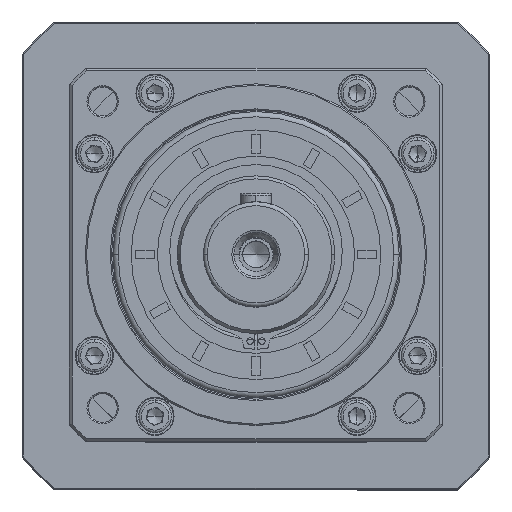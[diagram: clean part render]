
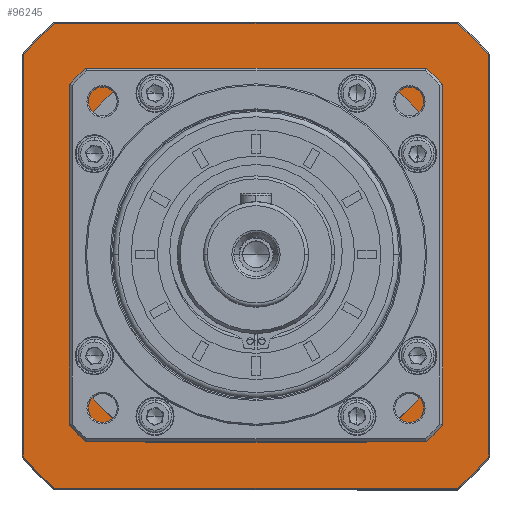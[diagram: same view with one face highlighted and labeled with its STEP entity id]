
A CAD part, top view. The second image highlights one B-rep face of the part: STEP entity #96245.
In plain terms, the highlighted planar face has unit normal (0, 0, 1).
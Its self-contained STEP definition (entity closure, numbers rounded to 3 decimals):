
#548 = DIRECTION ( 'NONE',  ( -1., 0., 0. ) ) ;
#1230 = DIRECTION ( 'NONE',  ( -1., 0., 0. ) ) ;
#1684 = CARTESIAN_POINT ( 'NONE',  ( 274.907, -159.778, 165.15 ) ) ;
#2084 = DIRECTION ( 'NONE',  ( 0., 0., 1. ) ) ;
#2259 = VECTOR ( 'NONE', #107546, 1000. ) ;
#2315 = CIRCLE ( 'NONE', #75763, 82. ) ;
#2884 = CIRCLE ( 'NONE', #21040, 82. ) ;
#2931 = VECTOR ( 'NONE', #21047, 1000. ) ;
#2955 = VERTEX_POINT ( 'NONE', #10046 ) ;
#6943 = LINE ( 'NONE', #35432, #2259 ) ;
#7149 = VERTEX_POINT ( 'NONE', #115398 ) ;
#9343 = CARTESIAN_POINT ( 'NONE',  ( 274.907, -236.307, 165.15 ) ) ;
#10046 = CARTESIAN_POINT ( 'NONE',  ( 144.53, -89.278, 165.15 ) ) ;
#10596 = CARTESIAN_POINT ( 'NONE',  ( 274.907, -83.248, 165.15 ) ) ;
#11702 = CIRCLE ( 'NONE', #46884, 117. ) ;
#13071 = EDGE_CURVE ( 'NONE', #45109, #96413, #17241, .T. ) ;
#16123 = ORIENTED_EDGE ( 'NONE', *, *, #84993, .T. ) ;
#16152 = CARTESIAN_POINT ( 'NONE',  ( 262.937, -71.278, 165.15 ) ) ;
#16263 = CARTESIAN_POINT ( 'NONE',  ( 228.285, -89.278, 165.15 ) ) ;
#16564 = LINE ( 'NONE', #17258, #65749 ) ;
#16669 = CARTESIAN_POINT ( 'NONE',  ( 186.407, -159.778, 165.15 ) ) ;
#17241 = CIRCLE ( 'NONE', #68551, 117. ) ;
#17258 = CARTESIAN_POINT ( 'NONE',  ( 186.407, -248.278, 165.15 ) ) ;
#17405 = VERTEX_POINT ( 'NONE', #105815 ) ;
#18490 = VERTEX_POINT ( 'NONE', #126918 ) ;
#18647 = ORIENTED_EDGE ( 'NONE', *, *, #125973, .T. ) ;
#20080 = FACE_OUTER_BOUND ( 'NONE', #67184, .T. ) ;
#21040 = AXIS2_PLACEMENT_3D ( 'NONE', #42053, #67435, #95386 ) ;
#21047 = DIRECTION ( 'NONE',  ( 0., 1., 0. ) ) ;
#21441 = EDGE_CURVE ( 'NONE', #97814, #45109, #16564, .T. ) ;
#22011 = EDGE_CURVE ( 'NONE', #36737, #97479, #59370, .T. ) ;
#23020 = DIRECTION ( 'NONE',  ( 0., -1., 0. ) ) ;
#23628 = EDGE_CURVE ( 'NONE', #7149, #36737, #71889, .T. ) ;
#24302 = CARTESIAN_POINT ( 'NONE',  ( 186.407, -159.778, 165.15 ) ) ;
#24901 = AXIS2_PLACEMENT_3D ( 'NONE', #88626, #29839, #548 ) ;
#27435 = DIRECTION ( 'NONE',  ( 0., 0., -1. ) ) ;
#27561 = DIRECTION ( 'NONE',  ( 0., 0., 1. ) ) ;
#29839 = DIRECTION ( 'NONE',  ( 0., 0., 1. ) ) ;
#31140 = AXIS2_PLACEMENT_3D ( 'NONE', #24302, #92999, #113151 ) ;
#31799 = CARTESIAN_POINT ( 'NONE',  ( 186.407, -159.778, 165.15 ) ) ;
#32639 = DIRECTION ( 'NONE',  ( -1., 0., 0. ) ) ;
#32787 = VERTEX_POINT ( 'NONE', #57985 ) ;
#34290 = CARTESIAN_POINT ( 'NONE',  ( 186.407, -159.778, 165.15 ) ) ;
#34391 = LINE ( 'NONE', #105708, #109658 ) ;
#35008 = ORIENTED_EDGE ( 'NONE', *, *, #22011, .T. ) ;
#35255 = LINE ( 'NONE', #1684, #2931 ) ;
#35432 = CARTESIAN_POINT ( 'NONE',  ( 228.422, -89.278, 165.15 ) ) ;
#35811 = VERTEX_POINT ( 'NONE', #16263 ) ;
#36737 = VERTEX_POINT ( 'NONE', #77931 ) ;
#37908 = VECTOR ( 'NONE', #49817, 1000. ) ;
#42053 = CARTESIAN_POINT ( 'NONE',  ( 186.407, -159.778, 165.15 ) ) ;
#42377 = CARTESIAN_POINT ( 'NONE',  ( 115.907, -201.656, 165.15 ) ) ;
#42391 = DIRECTION ( 'NONE',  ( 0., 0., -1. ) ) ;
#45109 = VERTEX_POINT ( 'NONE', #118710 ) ;
#45464 = CARTESIAN_POINT ( 'NONE',  ( 144.392, -230.278, 165.15 ) ) ;
#45564 = AXIS2_PLACEMENT_3D ( 'NONE', #58886, #27561, #117232 ) ;
#46551 = VERTEX_POINT ( 'NONE', #119806 ) ;
#46884 = AXIS2_PLACEMENT_3D ( 'NONE', #60121, #2084, #1230 ) ;
#47182 = LINE ( 'NONE', #65268, #37908 ) ;
#49817 = DIRECTION ( 'NONE',  ( -1., 0., 0. ) ) ;
#51550 = VECTOR ( 'NONE', #23020, 1000. ) ;
#53807 = CIRCLE ( 'NONE', #24901, 117. ) ;
#55380 = ORIENTED_EDGE ( 'NONE', *, *, #90247, .T. ) ;
#55790 = DIRECTION ( 'NONE',  ( -1., 0., 0. ) ) ;
#55903 = DIRECTION ( 'NONE',  ( 1., 0., 0. ) ) ;
#55962 = CIRCLE ( 'NONE', #59418, 82. ) ;
#57985 = CARTESIAN_POINT ( 'NONE',  ( 97.907, -236.307, 165.15 ) ) ;
#58053 = VECTOR ( 'NONE', #55790, 1000. ) ;
#58202 = CIRCLE ( 'NONE', #45564, 117. ) ;
#58886 = CARTESIAN_POINT ( 'NONE',  ( 186.407, -159.778, 165.15 ) ) ;
#59370 = CIRCLE ( 'NONE', #31140, 82. ) ;
#59418 = AXIS2_PLACEMENT_3D ( 'NONE', #126680, #59709, #60566 ) ;
#59495 = ORIENTED_EDGE ( 'NONE', *, *, #106410, .T. ) ;
#59709 = DIRECTION ( 'NONE',  ( 0., 0., -1. ) ) ;
#60121 = CARTESIAN_POINT ( 'NONE',  ( 186.407, -159.778, 165.15 ) ) ;
#60566 = DIRECTION ( 'NONE',  ( 1., 0., 0. ) ) ;
#61961 = ORIENTED_EDGE ( 'NONE', *, *, #101890, .T. ) ;
#62099 = CARTESIAN_POINT ( 'NONE',  ( 97.907, -159.778, 165.15 ) ) ;
#63714 = EDGE_CURVE ( 'NONE', #18490, #111305, #2315, .T. ) ;
#64536 = VERTEX_POINT ( 'NONE', #107073 ) ;
#65268 = CARTESIAN_POINT ( 'NONE',  ( 186.407, -71.278, 165.15 ) ) ;
#65749 = VECTOR ( 'NONE', #55903, 1000. ) ;
#66918 = DIRECTION ( 'NONE',  ( -1., 0., 0. ) ) ;
#66974 = EDGE_CURVE ( 'NONE', #35811, #7149, #2884, .T. ) ;
#67184 = EDGE_LOOP ( 'NONE', ( #124735, #71682, #122724, #76504, #55380, #108016, #59495, #120520 ) ) ;
#67371 = ORIENTED_EDGE ( 'NONE', *, *, #66974, .T. ) ;
#67435 = DIRECTION ( 'NONE',  ( 0., 0., -1. ) ) ;
#68551 = AXIS2_PLACEMENT_3D ( 'NONE', #31799, #81172, #32639 ) ;
#71318 = CARTESIAN_POINT ( 'NONE',  ( 109.878, -248.278, 165.15 ) ) ;
#71588 = LINE ( 'NONE', #62099, #51550 ) ;
#71682 = ORIENTED_EDGE ( 'NONE', *, *, #109125, .T. ) ;
#71889 = LINE ( 'NONE', #105770, #90199 ) ;
#74661 = AXIS2_PLACEMENT_3D ( 'NONE', #16669, #27435, #66918 ) ;
#75763 = AXIS2_PLACEMENT_3D ( 'NONE', #34290, #42391, #111142 ) ;
#76407 = PLANE ( 'NONE',  #74661 ) ;
#76504 = ORIENTED_EDGE ( 'NONE', *, *, #13071, .T. ) ;
#77931 = CARTESIAN_POINT ( 'NONE',  ( 256.907, -201.656, 165.15 ) ) ;
#80952 = VERTEX_POINT ( 'NONE', #10596 ) ;
#81113 = LINE ( 'NONE', #45464, #58053 ) ;
#81172 = DIRECTION ( 'NONE',  ( 0., 0., 1. ) ) ;
#84658 = EDGE_CURVE ( 'NONE', #64536, #32787, #71588, .T. ) ;
#84993 = EDGE_CURVE ( 'NONE', #2955, #35811, #6943, .T. ) ;
#88626 = CARTESIAN_POINT ( 'NONE',  ( 186.407, -159.778, 165.15 ) ) ;
#90199 = VECTOR ( 'NONE', #115599, 1000. ) ;
#90247 = EDGE_CURVE ( 'NONE', #96413, #80952, #35255, .T. ) ;
#92999 = DIRECTION ( 'NONE',  ( 0., 0., -1. ) ) ;
#93230 = EDGE_CURVE ( 'NONE', #46551, #2955, #55962, .T. ) ;
#94974 = CARTESIAN_POINT ( 'NONE',  ( 228.285, -230.278, 165.15 ) ) ;
#95368 = FACE_BOUND ( 'NONE', #107555, .T. ) ;
#95386 = DIRECTION ( 'NONE',  ( 1., 0., 0. ) ) ;
#96245 = ADVANCED_FACE ( 'NONE', ( #20080, #95368 ), #76407, .F. ) ;
#96413 = VERTEX_POINT ( 'NONE', #9343 ) ;
#97479 = VERTEX_POINT ( 'NONE', #94974 ) ;
#97814 = VERTEX_POINT ( 'NONE', #71318 ) ;
#99190 = ORIENTED_EDGE ( 'NONE', *, *, #63714, .T. ) ;
#101890 = EDGE_CURVE ( 'NONE', #97479, #18490, #81113, .T. ) ;
#105708 = CARTESIAN_POINT ( 'NONE',  ( 115.907, -117.763, 165.15 ) ) ;
#105770 = CARTESIAN_POINT ( 'NONE',  ( 256.907, -201.793, 165.15 ) ) ;
#105815 = CARTESIAN_POINT ( 'NONE',  ( 109.878, -71.278, 165.15 ) ) ;
#106410 = EDGE_CURVE ( 'NONE', #112534, #17405, #47182, .T. ) ;
#106549 = EDGE_CURVE ( 'NONE', #80952, #112534, #11702, .T. ) ;
#107073 = CARTESIAN_POINT ( 'NONE',  ( 97.907, -83.248, 165.15 ) ) ;
#107546 = DIRECTION ( 'NONE',  ( 1., 0., 0. ) ) ;
#107555 = EDGE_LOOP ( 'NONE', ( #114701, #16123, #67371, #126538, #35008, #61961, #99190, #18647 ) ) ;
#108016 = ORIENTED_EDGE ( 'NONE', *, *, #106549, .T. ) ;
#108573 = EDGE_CURVE ( 'NONE', #17405, #64536, #53807, .T. ) ;
#109125 = EDGE_CURVE ( 'NONE', #32787, #97814, #58202, .T. ) ;
#109658 = VECTOR ( 'NONE', #115537, 1000. ) ;
#111142 = DIRECTION ( 'NONE',  ( 1., 0., 0. ) ) ;
#111305 = VERTEX_POINT ( 'NONE', #42377 ) ;
#112534 = VERTEX_POINT ( 'NONE', #16152 ) ;
#113151 = DIRECTION ( 'NONE',  ( 1., 0., 0. ) ) ;
#114701 = ORIENTED_EDGE ( 'NONE', *, *, #93230, .T. ) ;
#115398 = CARTESIAN_POINT ( 'NONE',  ( 256.907, -117.9, 165.15 ) ) ;
#115537 = DIRECTION ( 'NONE',  ( 0., 1., 0. ) ) ;
#115599 = DIRECTION ( 'NONE',  ( 0., -1., 0. ) ) ;
#117232 = DIRECTION ( 'NONE',  ( -1., 0., 0. ) ) ;
#118710 = CARTESIAN_POINT ( 'NONE',  ( 262.937, -248.278, 165.15 ) ) ;
#119806 = CARTESIAN_POINT ( 'NONE',  ( 115.907, -117.9, 165.15 ) ) ;
#120520 = ORIENTED_EDGE ( 'NONE', *, *, #108573, .T. ) ;
#122724 = ORIENTED_EDGE ( 'NONE', *, *, #21441, .T. ) ;
#124735 = ORIENTED_EDGE ( 'NONE', *, *, #84658, .T. ) ;
#125973 = EDGE_CURVE ( 'NONE', #111305, #46551, #34391, .T. ) ;
#126538 = ORIENTED_EDGE ( 'NONE', *, *, #23628, .T. ) ;
#126680 = CARTESIAN_POINT ( 'NONE',  ( 186.407, -159.778, 165.15 ) ) ;
#126918 = CARTESIAN_POINT ( 'NONE',  ( 144.53, -230.278, 165.15 ) ) ;
